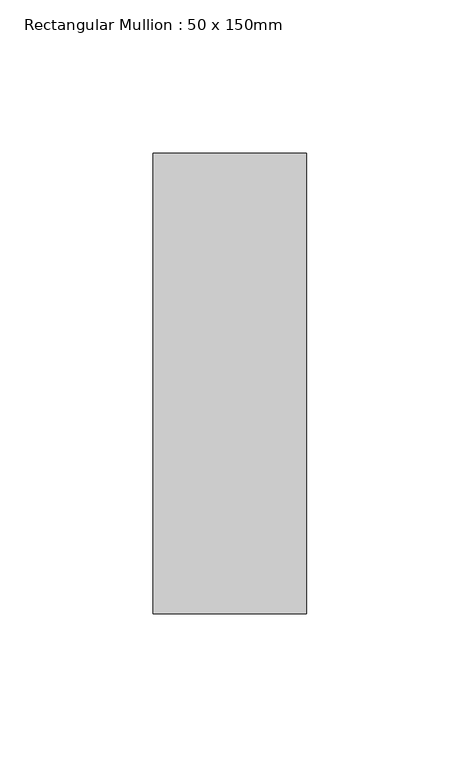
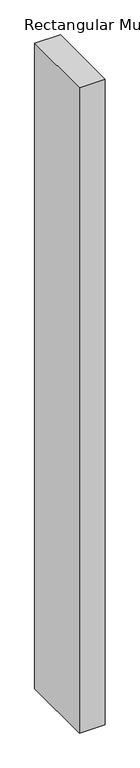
"""IFC4 building model written with IfcOpenShell, lengths in millimetres: member geometry, Rectangular Mullion : 50 x 150mm."""

from ifc_helpers import new_model, si_unit, frame, origin, place, context, project, spatial, polyline, outline, extrude, source, transform, mapped, element, save


def rectangular_mullion_50_x_150mm_189380b4(model_context):
    return source(origin(), model_context, "Body", "SweptSolid", [
        extrude(outline(polyline([(25.0, 75.0), (25.0, -75.0), (-25.0, -75.0), (-25.0, 75.0), (25.0, 75.0)])), frame((0.0, 0.0, -1325.0), z_axis=(0.0, 0.0, 1.0), x_axis=(1.0, 0.0, 0.0)), (0.0, 0.0, 1.0), 1325.0),
    ])


if __name__ == "__main__":
    model = new_model("IFC4")
    model_context = context("Model", 3, world=origin())
    ifc_project = project(units=[si_unit("LENGTHUNIT", "METRE", prefix="MILLI")], contexts=[model_context])
    site = spatial("IfcSite", under=ifc_project)
    building = spatial("IfcBuilding", under=site)
    placement = place(None, origin())
    rectangular_mullion_50_x_150mm_shape = rectangular_mullion_50_x_150mm_189380b4(model_context)
    element("IfcMember", 1, ObjectType="Rectangular Mullion : 50 x 150mm", at=placement, inside=building, context=model_context, shape_type="MappedRepresentation", body=[
        mapped(rectangular_mullion_50_x_150mm_shape, transform((0.0, 0.0, 0.0), x_axis=(1.0, 0.0, 0.0), y_axis=(0.0, 1.0, 0.0), z_axis=(0.0, 0.0, 1.0))),
    ])
    save(model, "model.ifc")
